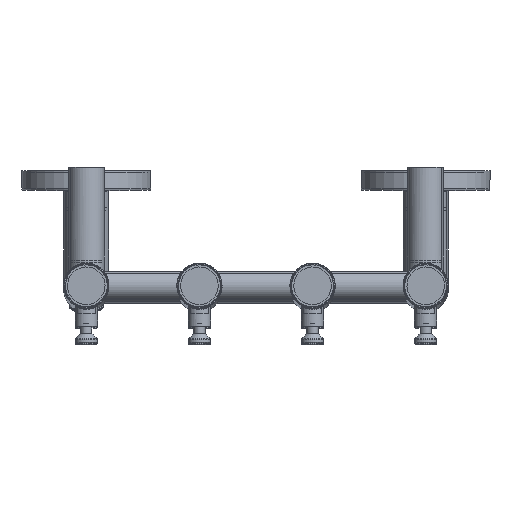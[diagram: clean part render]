
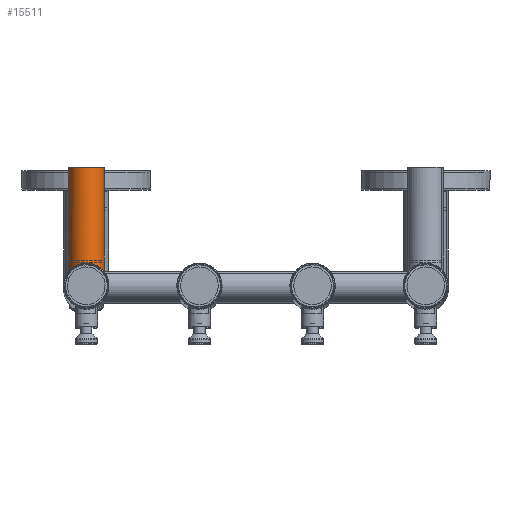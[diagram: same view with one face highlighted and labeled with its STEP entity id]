
A CAD part, top view. The second image highlights one B-rep face of the part: STEP entity #15511.
In plain terms, the highlighted cylindrical face has radius 12.5 mm (diameter 25 mm), a full revolution.
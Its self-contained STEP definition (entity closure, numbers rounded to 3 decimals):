
#939=CIRCLE('',#16991,12.5);
#6929=ORIENTED_EDGE('',*,*,#9267,.F.);
#6930=ORIENTED_EDGE('',*,*,#9268,.T.);
#6931=ORIENTED_EDGE('',*,*,#9269,.T.);
#9267=EDGE_CURVE('',#10701,#10701,#11374,.T.);
#9268=EDGE_CURVE('',#10702,#10702,#11375,.T.);
#9269=EDGE_CURVE('',#10703,#10703,#939,.T.);
#10701=VERTEX_POINT('',#28585);
#10702=VERTEX_POINT('',#28615);
#10703=VERTEX_POINT('',#28617);
#11374=B_SPLINE_CURVE_WITH_KNOTS('',3,(#28574,#28575,#28576,#28577,#28578,
#28579,#28580,#28581,#28582,#28583,#28584),.UNSPECIFIED.,.T.,.F.,(1,1,1,
1,1,1,1,1,1,1,1,1,1,1,1),(-0.005,-0.003,-0.002,
0.,0.002,0.003,0.005,
0.006,0.008,0.01,0.011,
0.013,0.015,0.016,0.018),
 .UNSPECIFIED.);
#11375=B_SPLINE_CURVE_WITH_KNOTS('',3,(#28586,#28587,#28588,#28589,#28590,
#28591,#28592,#28593,#28594,#28595,#28596,#28597,#28598,#28599,#28600,#28601,
#28602,#28603,#28604,#28605,#28606,#28607,#28608,#28609,#28610,#28611,#28612,
#28613,#28614),.UNSPECIFIED.,.T.,.F.,(1,1,1,1,1,1,1,1,1,1,1,1,1,1,1,1,1,
1,1,1,1,1,1,1,1,1,1,1,1,1,1,1,1),(-0.008,-0.005,
-0.003,0.,0.003,0.005,0.008,
0.01,0.015,0.018,0.021,
0.026,0.031,0.033,0.036,
0.039,0.041,0.044,0.046,
0.049,0.051,0.057,0.059,
0.062,0.067,0.072,0.075,
0.077,0.08,0.082,0.085,
0.087,0.09),.UNSPECIFIED.);
#12249=EDGE_LOOP('',(#6929));
#12250=EDGE_LOOP('',(#6930));
#12251=EDGE_LOOP('',(#6931));
#13407=FACE_BOUND('',#12249,.T.);
#13408=FACE_BOUND('',#12250,.T.);
#13409=FACE_BOUND('',#12251,.T.);
#14014=CYLINDRICAL_SURFACE('',#16990,12.5);
#15511=ADVANCED_FACE('',(#13407,#13408,#13409),#14014,.T.);
#16990=AXIS2_PLACEMENT_3D('',#28573,#20673,#20674);
#16991=AXIS2_PLACEMENT_3D('',#28616,#20675,#20676);
#20673=DIRECTION('',(-1.,0.,0.));
#20674=DIRECTION('',(0.,0.,1.));
#20675=DIRECTION('',(-1.,0.,0.));
#20676=DIRECTION('',(0.,1.,0.));
#28573=CARTESIAN_POINT('',(37.,0.,0.));
#28574=CARTESIAN_POINT('',(26.379,1.618,-12.415));
#28575=CARTESIAN_POINT('',(28.,2.291,-12.285));
#28576=CARTESIAN_POINT('',(29.62,1.619,-12.415));
#28577=CARTESIAN_POINT('',(30.29,0.002,-12.543));
#28578=CARTESIAN_POINT('',(29.62,-1.62,-12.415));
#28579=CARTESIAN_POINT('',(28.001,-2.29,-12.285));
#28580=CARTESIAN_POINT('',(26.382,-1.621,-12.414));
#28581=CARTESIAN_POINT('',(25.709,-0.002,-12.543));
#28582=CARTESIAN_POINT('',(26.379,1.618,-12.415));
#28583=CARTESIAN_POINT('',(28.,2.291,-12.285));
#28584=CARTESIAN_POINT('',(29.62,1.619,-12.415));
#28585=CARTESIAN_POINT('',(28.,2.067,-12.328));
#28586=CARTESIAN_POINT('',(-36.765,-12.317,2.586));
#28587=CARTESIAN_POINT('',(-37.117,-12.591,-0.002));
#28588=CARTESIAN_POINT('',(-36.767,-12.319,-2.576));
#28589=CARTESIAN_POINT('',(-35.906,-11.569,-4.933));
#28590=CARTESIAN_POINT('',(-34.823,-10.441,-7.004));
#28591=CARTESIAN_POINT('',(-33.307,-8.475,-9.417));
#28592=CARTESIAN_POINT('',(-31.932,-5.828,-11.276));
#28593=CARTESIAN_POINT('',(-31.131,-2.601,-12.317));
#28594=CARTESIAN_POINT('',(-30.842,0.865,-12.684));
#28595=CARTESIAN_POINT('',(-31.574,5.147,-11.76));
#28596=CARTESIAN_POINT('',(-33.31,8.479,-9.412));
#28597=CARTESIAN_POINT('',(-34.82,10.437,-7.01));
#28598=CARTESIAN_POINT('',(-35.91,11.572,-4.926));
#28599=CARTESIAN_POINT('',(-36.769,12.32,-2.574));
#28600=CARTESIAN_POINT('',(-37.117,12.591,0.018));
#28601=CARTESIAN_POINT('',(-36.764,12.316,2.588));
#28602=CARTESIAN_POINT('',(-35.902,11.565,4.943));
#28603=CARTESIAN_POINT('',(-34.819,10.436,7.01));
#28604=CARTESIAN_POINT('',(-33.304,8.47,9.421));
#28605=CARTESIAN_POINT('',(-31.931,5.825,11.278));
#28606=CARTESIAN_POINT('',(-31.131,2.599,12.317));
#28607=CARTESIAN_POINT('',(-30.843,-0.864,12.684));
#28608=CARTESIAN_POINT('',(-31.573,-5.144,11.761));
#28609=CARTESIAN_POINT('',(-33.307,-8.474,9.416));
#28610=CARTESIAN_POINT('',(-34.816,-10.432,7.016));
#28611=CARTESIAN_POINT('',(-35.905,-11.568,4.935));
#28612=CARTESIAN_POINT('',(-36.765,-12.317,2.586));
#28613=CARTESIAN_POINT('',(-37.117,-12.591,-0.002));
#28614=CARTESIAN_POINT('',(-36.767,-12.319,-2.576));
#28615=CARTESIAN_POINT('',(-37.,-12.5,0.));
#28616=CARTESIAN_POINT('',(37.,0.,0.));
#28617=CARTESIAN_POINT('',(37.,12.5,0.));
